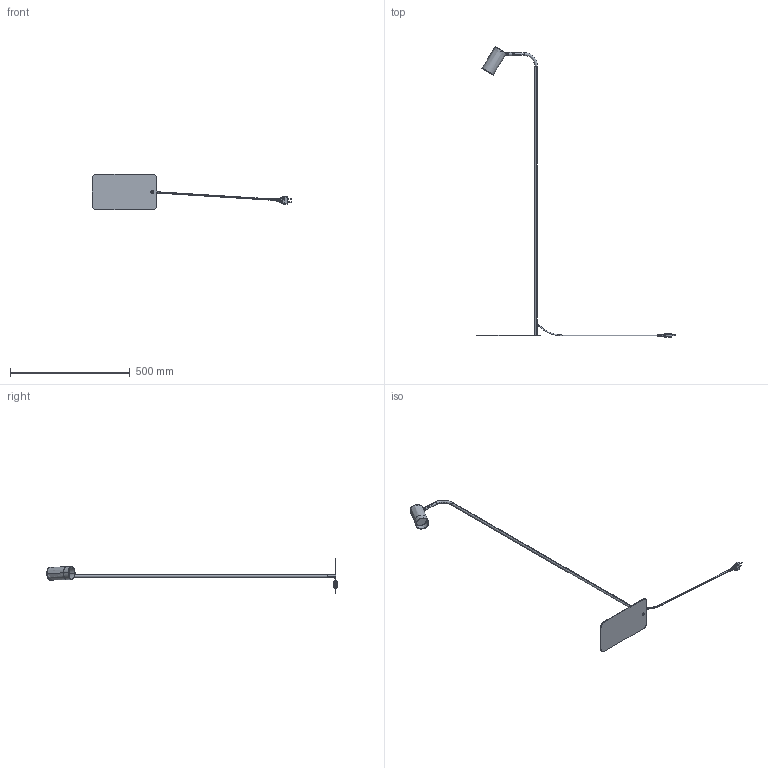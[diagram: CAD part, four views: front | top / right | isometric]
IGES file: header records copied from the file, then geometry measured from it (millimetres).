
Start section: SolidWorks IGES file using analytic representation for surfaces
Global section: file name: 8HZ:\Modele 3D_WWW\_KOLEKCJE_WWW\MONO\MONO-PODΜGA\MONO-I-BRASS-7711\MONO-I-BRASS-7711.IGS; native system: SolidWorks 2021; preprocessor: SolidWorks 2021; author: gabriela.tworek; date: 210823.142158; units: millimetre
Bounding box: 833.68 x 1213.05 x 150 mm (x, y, z)
Surface area: 251401.8 mm2 (no closed solid volume)
Topology: 0 solids, 0 shells, 979 faces, 11824 edges, 11818 vertices
Faces by surface type: bspline 650, revolution 329
